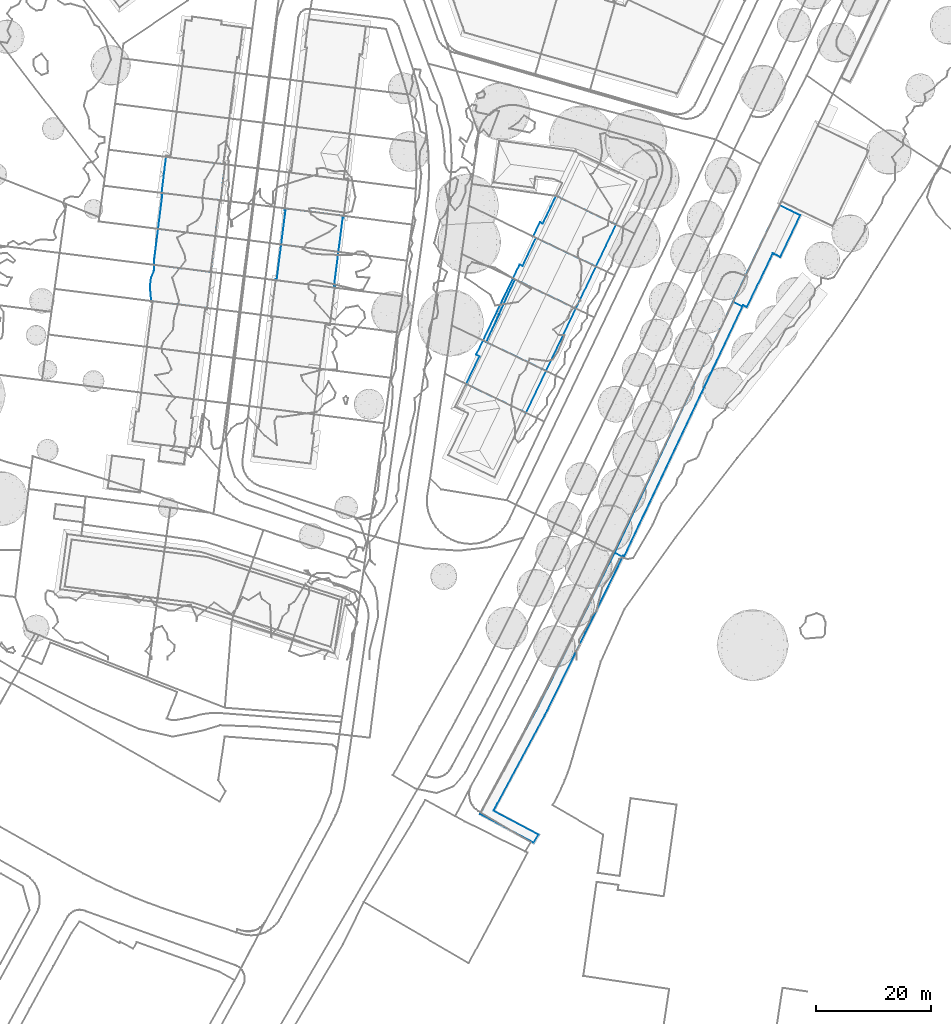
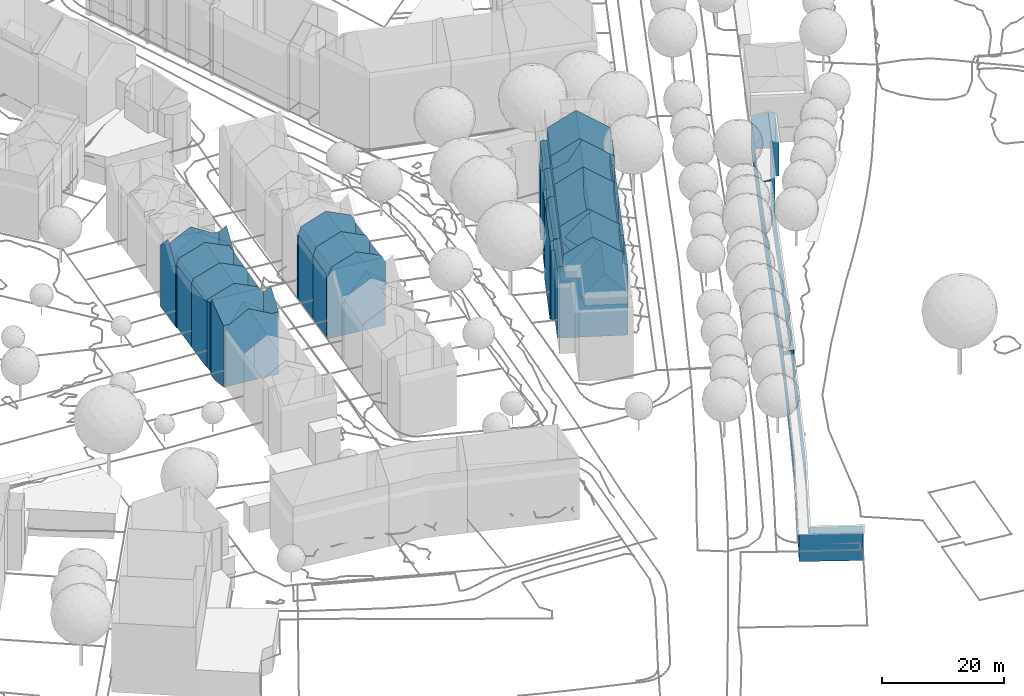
# Not in any storey, part 39 of 477: 12 walls.
"""IFC4 building model written with IfcOpenShell, lengths in metres."""

from ifc_helpers import new_model, si_unit, frame, origin_with_axes, place, context, subcontext, project, spatial, polygons, element, save


model = new_model("IFC4")

# Units and contexts
model_context = context("Model", 3, precision=1e-05, world=origin_with_axes())
body_context = subcontext(model_context, "Body", "Model", "MODEL_VIEW")
ifc_project = project(units=[si_unit("AREAUNIT", "SQUARE_METRE"), si_unit("LENGTHUNIT", "METRE")], contexts=[model_context])

# Sites, building
site_1_placement = place(None, origin_with_axes())
site_1 = spatial("IfcSite", under=ifc_project, at=site_1_placement, Name="Topoexport Site")
site_2_placement = place(site_1_placement, origin_with_axes())
site_2 = spatial("IfcSite", under=site_1, at=site_2_placement, Name="TPX_BUILDINGS")
building_1_placement = place(site_2_placement, frame((495.5237320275, 54.2186160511, 497.0566), z_axis=(0.0, 0.0, 1.0), x_axis=(1.0, 0.0, 0.0)))
building_1 = spatial("IfcBuilding", under=site_2, at=building_1_placement, Name="Building 9", CompositionType="ELEMENT")

# Walls
wall_1_placement = place(None, frame((495.5237320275, 54.2186160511, 497.0566), z_axis=(0.0, 0.0, 1.0), x_axis=(1.0, 0.0, 0.0)))
element("IfcWall", 1, at=wall_1_placement, inside=building_1, Name="Wall 0", context=body_context, shape_type="Tessellation", body=[
    polygons([(2.2589999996, 3.4111000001, 0.44), (0.5759999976, -0.2784000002, 0.508), (2.0359999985, 2.9228000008, 15.9155), (5.2080000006, 10.8144000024, 0.0001), (5.5590000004, 10.6464000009, 0.309), (5.2080000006, 10.8144000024, 15.4666), (0.0, 0.0, 0.0), (2.3440000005, 4.8662, 15.4666), (0.0, 0.0, 15.4666), (2.3440000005, 4.8662, 0.0001), (0.5759999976, -0.2784000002, 15.9735), (0.5370000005, -0.2588, 0.473), (5.5590000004, 10.6464000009, 15.7755)], [[[3, 2, 1]], [[6, 5, 4]], [[9, 8, 7]], [[4, 10, 6]], [[11, 9, 2]], [[9, 12, 2]], [[12, 9, 7]], [[5, 13, 1]], [[1, 13, 3]], [[11, 2, 3]], [[13, 5, 6]], [[8, 10, 7]], [[10, 8, 6]]]),
])
wall_2_placement = place(None, frame((495.5237320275, 54.2186160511, 497.0566), z_axis=(0.0, 0.0, 1.0), x_axis=(1.0, 0.0, 0.0)))
element("IfcWall", 2, at=wall_2_placement, inside=building_1, Name="Wall 1", context=body_context, shape_type="Tessellation", body=[
    polygons([(10.2449999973, -4.9483000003, 16.1765), (12.3139999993, -0.6543000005, 18.5382), (13.0480000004, 0.871100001, 16.1765), (14.8159999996, 4.5410000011, 16.1765), (15.4690000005, 5.8974000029, 18.5383), (15.4690000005, 5.8974000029, 16.1765), (1.4809999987, -0.7148999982, 16.1765), (4.068, 4.6552000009, 18.5573), (1.4809999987, -0.7148999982, 18.5573), (6.0260000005, 8.7187000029, 16.1765), (6.6919999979, 10.1025000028, 16.7714), (6.6919999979, 10.1025000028, 16.1765), (2.868999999, 4.6152000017, 1.9099), (2.8189999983, 4.638600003, 15.8845), (2.868999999, 4.6152000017, 15.9285), (2.8189999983, 4.638600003, 1.9099), (2.2569999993, 3.3349000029, 1.9099), (2.0370000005, 2.8769000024, 6.1695), (2.1970000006, 3.2099000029, 15.9325), (1.5599999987, 1.8789000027, 15.9345), (1.5599999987, 1.8789000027, 1.9099), (0.5759999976, -0.2784000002, 1.9099), (0.5759999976, -0.2784000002, 15.9745), (5.5590000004, 10.6464000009, 15.7755), (5.5590000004, 10.6464000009, 1.9099), (16.1620000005, 5.5644000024, 1.9099), (10.9659999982, -5.2958999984, 16.1765), (16.1620000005, 5.5644000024, 16.1765), (5.7670000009, -2.7851999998, 21.8379), (10.2449999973, -4.9483000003, 18.5382), (10.9659999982, -5.2958999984, 1.9098), (10.2449999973, -4.9483000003, 1.9098), (0.805999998, -0.3886999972, 16.1765), (5.748999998, -2.7763999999, 1.9099), (6.0159999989, 10.4266999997, 1.9099), (6.0159999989, 10.4266999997, 16.1765), (6.6919999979, 10.1025000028, 1.9099), (10.9839999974, 8.0459000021, 1.9099), (15.4690000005, 5.8974000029, 1.9099), (10.9839999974, 8.0459000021, 21.8379), (6.6919999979, 10.1025000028, 18.5573)], [[[3, 2, 1]], [[6, 5, 4]], [[5, 3, 4]], [[9, 8, 7]], [[8, 11, 10]], [[12, 10, 11]], [[15, 14, 13]], [[16, 13, 14]], [[18, 15, 17]], [[18, 20, 19]], [[20, 18, 21]], [[18, 17, 21]], [[23, 20, 22]], [[16, 14, 24]], [[25, 16, 24]], [[28, 27, 26]], [[1, 29, 9]], [[1, 9, 7]], [[30, 29, 1]], [[27, 1, 31]], [[7, 31, 1]], [[7, 23, 32]], [[23, 7, 33]], [[31, 7, 32]], [[22, 34, 23]], [[23, 34, 32]], [[35, 25, 24]], [[36, 12, 24]], [[37, 24, 12]], [[35, 24, 37]], [[37, 12, 38]], [[28, 26, 39]], [[38, 6, 39]], [[6, 38, 12]], [[11, 41, 40]], [[11, 40, 5]], [[6, 28, 39]], [[5, 6, 11]], [[11, 6, 12]], [[5, 2, 3]], [[30, 1, 2]], [[8, 10, 7]], [[41, 11, 8]], [[19, 15, 18]], [[15, 13, 17]], [[20, 21, 22]], [[27, 31, 26]]]),
])

# Building
building_2_placement = place(site_2_placement, frame((504.2517320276, 72.3416160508, 498.9665), z_axis=(0.0, 0.0, 1.0), x_axis=(1.0, 0.0, 0.0)))
building_2 = spatial("IfcBuilding", under=site_2, at=building_2_placement, Name="Building 14", CompositionType="ELEMENT")

# Wall
wall_3_placement = place(None, frame((504.2517320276, 72.3416160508, 498.9665), z_axis=(0.0, 0.0, 1.0), x_axis=(1.0, 0.0, 0.0)))
element("IfcWall", 3, at=wall_3_placement, inside=building_2, Name="Wall 0", context=body_context, shape_type="Tessellation", body=[
    polygons([(12.0669999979, -2.878899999, 0.0), (11.811999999, -3.4130999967, 16.1344), (12.6840000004, -1.5888999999, 4.0276), (13.3420000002, -0.2138999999, 0.0), (12.6840000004, -1.5888999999, 16.1384), (13.555999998, 0.2354000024, 16.1424), (14.4289999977, 2.0596000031, 0.0), (14.4289999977, 2.0596000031, 8.0722), (10.9389999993, -5.2372999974, 12.0938), (10.9389999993, -5.2372999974, 8.0582), (10.9389999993, -5.2372999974, 4.0216), (10.9389999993, -5.2372999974, 0.0), (1.4849999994, -0.7108999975, 14.2666), (2.7699999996, 1.9570000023, 16.6474), (1.4849999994, -0.7108999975, 16.6474), (2.9349999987, 2.2998000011, 14.2666), (5.0020000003, 6.5898000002, 16.6474), (5.0020000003, 6.5898000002, 14.2666), (3.9849999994, 7.0654000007, 0.0), (3.0940000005, 5.2031000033, 3.4127), (3.3110000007, 5.6563000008, 0.0), (1.6769999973, 2.2412, 13.9836), (1.6769999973, 2.2412, 0.0), (2.2540000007, 3.447300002, 0.0), (3.9849999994, 7.0654000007, 13.9726), (3.1349999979, 5.2881000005, 13.9766), (1.3719999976, 2.3867000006, 13.7157), (1.3539999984, 2.3965000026, 3.7946), (1.1909999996, 2.4736000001, 0.0), (0.0, 0.0, 0.0), (0.0, 0.0, 13.5567), (4.0260000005, 7.0596000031, 0.0), (4.0260000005, 7.0596000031, 14.0036), (5.7769999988, -2.7655999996, 0.0), (1.4849999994, -0.7108999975, 0.0), (0.8079999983, -0.3866999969, 0.0), (5.7769999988, -2.7655999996, 19.9271), (10.9389999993, -5.2372999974, 16.1304), (0.8079999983, -0.3866999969, 14.2666), (9.2909999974, 4.5293000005, 19.9271), (4.3259999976, 6.9150000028, 14.2666), (5.0020000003, 6.5898000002, 0.0), (14.4289999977, 2.0596000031, 16.1454), (9.2909999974, 4.5293000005, 0.0), (4.3259999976, 6.9150000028, 0.0), (1.1909999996, 2.4736000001, 13.5567)], [[[3, 2, 1]], [[6, 5, 4]], [[8, 4, 7]], [[2, 9, 1]], [[3, 1, 4]], [[11, 1, 10]], [[11, 12, 1]], [[15, 14, 13]], [[14, 17, 16]], [[16, 13, 14]], [[18, 16, 17]], [[21, 20, 19]], [[23, 22, 20]], [[24, 23, 20]], [[26, 25, 20]], [[21, 24, 20]], [[28, 27, 22]], [[29, 28, 23]], [[22, 23, 28]], [[31, 29, 30]], [[25, 32, 19]], [[32, 25, 33]], [[31, 34, 11]], [[31, 11, 10]], [[9, 13, 10]], [[12, 11, 34]], [[31, 36, 35]], [[34, 31, 35]], [[9, 38, 37]], [[13, 9, 15]], [[36, 31, 30]], [[10, 13, 31]], [[39, 31, 13]], [[15, 9, 37]], [[17, 40, 18]], [[33, 41, 18]], [[33, 18, 42]], [[40, 43, 18]], [[43, 8, 18]], [[8, 42, 18]], [[44, 8, 7]], [[33, 45, 32]], [[33, 42, 45]], [[8, 44, 42]], [[6, 4, 43]], [[5, 3, 4]], [[8, 43, 4]], [[3, 5, 2]], [[38, 9, 2]], [[9, 10, 1]], [[22, 26, 20]], [[19, 20, 25]], [[27, 28, 46]], [[29, 46, 28]], [[46, 29, 31]]]),
])

# Building
building_3_placement = place(site_2_placement, frame((500.7317320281, 65.0330160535, 498.9665), z_axis=(0.0, 0.0, 1.0), x_axis=(1.0, 0.0, 0.0)))
building_3 = spatial("IfcBuilding", under=site_2, at=building_3_placement, Name="Building 16", CompositionType="ELEMENT")

# Wall
wall_4_placement = place(None, frame((500.7317320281, 65.0330160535, 498.9665), z_axis=(0.0, 0.0, 1.0), x_axis=(1.0, 0.0, 0.0)))
element("IfcWall", 4, at=wall_4_placement, inside=building_3, Name="Wall 0", context=body_context, shape_type="Tessellation", body=[
    polygons([(13.7829999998, 2.3944999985, 14.2666), (10.2609999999, -4.9180000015, 16.6274), (13.7829999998, 2.3944999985, 16.6284), (2.9289999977, 4.8095999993, 13.9936), (1.6799999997, 2.1992000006, 13.9996), (1.6799999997, 2.1992000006, 0.0), (3.2749999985, 5.5321999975, 0.0), (4.0119999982, 7.0722999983, 3.5056), (4.0119999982, 7.0722999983, 0.0), (1.175999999, 2.441399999, 0.0), (1.175999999, 2.441399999, 13.5567), (0.0, 0.0, 0.0), (0.0, 0.0, 13.5567), (14.4579999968, 2.0713, 0.0), (10.9539999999, -5.25, 14.2666), (14.4579999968, 2.0713, 14.2666), (1.4839999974, -0.7109000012, 16.6474), (5.7759999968, -2.7685000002, 19.928), (10.2609999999, -4.9180000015, 14.2666), (1.4839999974, -0.7109000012, 14.2666), (10.9539999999, -5.25, 0.0), (10.2609999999, -4.9180000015, 0.0), (0.8079999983, -0.3877000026, 0.0), (5.7969999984, -2.7783000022, 0.0), (0.8079999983, -0.3877000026, 14.2666), (4.5700000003, 6.8057000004, 0.0), (4.0119999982, 7.0722999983, 10.028), (9.2969999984, 4.5429999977, 0.0), (13.7829999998, 2.3944999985, 0.0), (5.004999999, 6.5976999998, 14.2666), (4.0119999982, 7.0722999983, 13.9886), (9.2969999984, 4.5429999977, 19.9271), (5.004999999, 6.5976999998, 16.6474), (4.3279999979, 6.9219000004, 14.2666), (3.5259999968, 3.5263999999, 16.6474), (3.5739999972, 3.6279000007, 14.2666)], [[[3, 2, 1]], [[6, 5, 4]], [[7, 6, 4]], [[7, 4, 8]], [[8, 9, 7]], [[11, 6, 10]], [[13, 10, 12]], [[10, 13, 11]], [[16, 15, 14]], [[19, 18, 17]], [[19, 17, 20]], [[15, 19, 21]], [[19, 2, 18]], [[21, 19, 20]], [[20, 13, 22]], [[12, 23, 13]], [[24, 13, 23]], [[21, 20, 22]], [[22, 13, 24]], [[20, 25, 13]], [[9, 8, 26]], [[1, 28, 27]], [[8, 27, 28]], [[28, 1, 29]], [[26, 8, 28]], [[1, 14, 29]], [[27, 31, 30]], [[30, 33, 32]], [[1, 30, 32]], [[16, 14, 1]], [[32, 3, 1]], [[27, 30, 1]], [[30, 31, 34]], [[2, 19, 1]], [[36, 35, 30]], [[17, 35, 20]], [[35, 36, 20]], [[33, 30, 35]], [[4, 31, 27]], [[8, 4, 27]], [[5, 6, 11]], [[15, 21, 14]]]),
])

# Building
building_4_placement = place(site_2_placement, frame((492.5717320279, 46.6580160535, 498.9665), z_axis=(0.0, 0.0, 1.0), x_axis=(1.0, 0.0, 0.0)))
building_4 = spatial("IfcBuilding", under=site_2, at=building_4_placement, Name="Building 17", CompositionType="ELEMENT")

# Wall
wall_5_placement = place(None, frame((492.5717320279, 46.6580160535, 498.9665), z_axis=(0.0, 0.0, 1.0), x_axis=(1.0, 0.0, 0.0)))
element("IfcWall", 5, at=wall_5_placement, inside=building_4, Name="Wall 0", context=body_context, shape_type="Tessellation", body=[
    polygons([(11.7980000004, -0.2939000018, 16.6283), (13.1979999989, 2.6122999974, 16.6283), (13.1979999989, 2.6122999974, 14.2666), (9.6889999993, -4.6719000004, 14.2666), (9.6889999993, -4.6719000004, 14.8125), (9.6889999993, -4.6719000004, 16.6283), (0.9230000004, -0.4453000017, 14.2666), (4.4329999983, 6.8456999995, 16.6474), (2.6789999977, 3.2030999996, 16.6474), (4.4329999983, 6.8456999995, 14.2666), (2.3319999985, 4.811499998, 0.0), (1.7639999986, 5.0946999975, 13.5567), (2.3319999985, 4.811499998, 14.0606), (1.7639999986, 5.0946999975, 0.0), (0.0, 0.0, 7.1073), (0.9690000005, 1.998999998, 0.0), (0.0, 0.0, 14.0496), (0.0, 0.0, 0.0), (2.9519999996, 7.5605999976, 13.5567), (2.9519999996, 7.5605999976, 0.0), (13.9179999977, 2.2646999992, -0.0001), (10.4279999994, -5.0283000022, 14.2666), (13.9179999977, 2.2646999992, 14.2666), (5.2089999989, -2.5127000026, 19.928), (0.9230000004, -0.4453000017, 16.6474), (9.6889999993, -4.6719000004, -0.0001), (0.2469999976, -0.1191000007, 14.2666), (5.2339999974, -2.5243999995, -0.0001), (0.1689999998, -0.0820000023, 0.0), (10.4279999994, -5.0283000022, -0.0001), (0.2469999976, -0.1191000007, 0.0), (3.7579999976, 7.1719000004, 14.2666), (3.5279999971, 7.2821999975, 14.0646), (3.9690000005, 7.0692999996, 0.0), (8.7190000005, 4.7753999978, 0.0), (13.1979999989, 2.6122999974, -0.0001), (8.7190000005, 4.7753999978, 19.928)], [[[3, 2, 1]], [[5, 4, 3]], [[5, 3, 1]], [[6, 5, 1]], [[9, 8, 7]], [[8, 10, 7]], [[13, 12, 11]], [[12, 14, 11]], [[17, 16, 15]], [[17, 13, 16]], [[15, 16, 18]], [[11, 16, 13]], [[20, 12, 19]], [[20, 14, 12]], [[23, 22, 21]], [[24, 7, 5]], [[25, 7, 24]], [[5, 6, 24]], [[26, 22, 4]], [[5, 7, 4]], [[4, 7, 15]], [[27, 17, 7]], [[7, 17, 15]], [[15, 28, 4]], [[29, 15, 18]], [[30, 22, 26]], [[26, 4, 28]], [[29, 31, 15]], [[15, 31, 28]], [[33, 32, 10]], [[33, 10, 19]], [[34, 19, 10]], [[20, 19, 34]], [[3, 36, 35]], [[10, 35, 34]], [[35, 10, 3]], [[10, 8, 37]], [[10, 37, 2]], [[36, 23, 21]], [[36, 3, 23]], [[2, 3, 10]], [[7, 25, 9]], [[22, 30, 21]]]),
])

# Building
building_5_placement = place(site_2_placement, frame((211.8297320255, 101.9383160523, 526.7541), z_axis=(0.0, 0.0, 1.0), x_axis=(1.0, 0.0, 0.0)))
building_5 = spatial("IfcBuilding", under=site_2, at=building_5_placement, Name="Building 18", CompositionType="ELEMENT")

# Wall
wall_6_placement = place(None, frame((211.8297320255, 101.9383160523, 526.7541), z_axis=(0.0, 0.0, 1.0), x_axis=(1.0, 0.0, 0.0)))
element("IfcWall", 6, at=wall_6_placement, inside=building_5, Name="Wall 1", context=body_context, shape_type="Tessellation", body=[
    polygons([(306.6060000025, -84.6942999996, -27.9427), (306.6080000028, -84.6933999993, -26.1389), (306.6060000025, -84.6942999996, -22.4562), (306.6052000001, -84.6944000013, -21.6243), (306.6070000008, -84.692400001, -27.9427), (308.1209999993, -85.2069999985, -23.0782), (308.313000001, -85.2412, -27.9427), (308.1209999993, -85.2069999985, -24.706), (308.1209999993, -85.2069999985, -26.3349), (308.1209999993, -85.2069999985, -27.9427), (285.512000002, -129.5995999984, -23.6291), (293.3480000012, -133.7763999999, -27.9427), (285.512000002, -129.5995999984, -22.1713), (285.512000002, -129.5995999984, -25.088), (285.512000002, -129.5995999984, -27.9427), (292.4979999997, -135.1669999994, -27.9427), (292.4979999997, -135.1669999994, -23.8301), (293.3480000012, -133.7763999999, -22.1083), (292.4979999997, -135.1669999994, -22.3713), (308.0360000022, -85.378899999, -22.2123), (308.0360000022, -85.378899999, -21.4493), (335.4580000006, -33.1464999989, -21.1473), (338.9510000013, -25.9023999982, -21.1473), (335.4580000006, -33.1464999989, -22.8461), (338.9510000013, -25.9023999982, -27.9427), (335.4580000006, -33.1464999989, -27.9427), (327.2420000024, -41.003899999, -21.5843), (328.8660000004, -41.7870999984, -21.0533), (328.8660000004, -41.7870999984, -21.4213), (327.2420000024, -41.003899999, -21.5393), (289.6669999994, -118.191399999, -22.4003), (289.1790000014, -119.0839999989, -27.9427), (289.6669999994, -118.191399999, -27.9427), (289.1810000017, -119.0791000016, -22.4033), (293.3880000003, -111.3975000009, -27.9427), (293.3880000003, -111.3975000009, -22.3783), (287.0720000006, -123.0791000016, -22.4153), (287.0720000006, -123.0791000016, -27.9427), (288.6020000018, -120.1777000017, -22.4053), (286.7400000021, -123.691399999, -22.4193), (283.2259999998, -130.1728999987, -27.9427), (286.7400000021, -123.691399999, -27.9427), (283.2259999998, -130.1728999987, -22.4413), (294.9710000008, -108.2001999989, -27.9427), (294.9710000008, -108.2001999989, -22.3872), (283.2410000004, -130.1807000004, -22.4383), (335.3610000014, -24.1719000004, -27.9426), (327.6119999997, -40.2362999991, -21.5403), (327.2400000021, -41.0078000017, -27.9427), (335.1650000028, -24.5771999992, -21.4983), (335.3610000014, -24.1719000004, -21.4983), (337.887000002, -25.3896999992, -20.7983), (334.3120000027, -32.5938000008, -20.8203), (334.393000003, -32.6328000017, -20.7983), (334.1680000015, -32.5234999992, -20.8613), (334.2990000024, -32.5879000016, -27.9427), (334.1680000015, -32.5234999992, -27.9427), (329.2160000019, -41.6796999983, -20.9813), (329.6530000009, -41.8887000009, -20.8603), (329.6530000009, -41.8887000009, -27.9427), (328.9720000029, -41.5625, -21.0543), (328.9720000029, -41.5625, -27.9427), (333.6909999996, -33.5137000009, -20.8643), (333.6909999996, -33.5137000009, -27.9427), (332.5610000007, -35.8555000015, -27.9427), (332.5610000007, -35.8555000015, -20.8603), (328.8660000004, -41.7870999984, -27.9427), (308.313000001, -85.2412, -25.4999), (308.313000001, -85.2412, -21.4283), (310.5970000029, -80.4120999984, -21.4233), (324.995000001, -45.7617000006, -21.5833), (306.6070000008, -84.692400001, -21.6243), (324.995000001, -45.7617000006, -27.9427), (308.1209999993, -85.2069999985, -21.4493), (306.5199999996, -88.4638999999, -22.2023), (294.876000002, -112.1572000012, -27.9427), (294.876000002, -112.1572000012, -22.1203), (286.1980000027, -128.3213, -22.1643), (294.4140000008, -113.0175999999, -22.1213), (286.1980000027, -128.3213, -27.9427), (294.4140000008, -113.0175999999, -27.9427), (285.9640000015, -128.7569000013, -22.1663), (285.5199999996, -129.5850000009, -22.1683), (285.9140000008, -128.8506000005, -27.9427)], [[[3, 2, 1]], [[2, 3, 4]], [[2, 5, 1]], [[8, 7, 6]], [[7, 8, 9]], [[7, 9, 10]], [[13, 12, 11]], [[11, 12, 14]], [[14, 12, 15]], [[12, 17, 16]], [[19, 17, 18]], [[21, 4, 20]], [[24, 23, 22]], [[23, 26, 25]], [[29, 28, 27]], [[30, 27, 28]], [[33, 32, 31]], [[31, 32, 34]], [[36, 35, 33]], [[36, 33, 31]], [[38, 37, 32]], [[32, 37, 39]], [[39, 34, 32]], [[42, 41, 40]], [[40, 41, 43]], [[37, 38, 42]], [[37, 42, 40]], [[36, 45, 44]], [[44, 35, 36]], [[45, 3, 44]], [[44, 3, 1]], [[16, 17, 43]], [[46, 17, 19]], [[16, 43, 41]], [[43, 17, 46]], [[49, 48, 47]], [[47, 48, 50]], [[50, 51, 47]], [[23, 25, 47]], [[47, 51, 52]], [[52, 23, 47]], [[54, 53, 24]], [[24, 22, 54]], [[55, 26, 24]], [[24, 53, 55]], [[56, 26, 55]], [[56, 55, 57]], [[60, 59, 58]], [[60, 58, 61]], [[62, 60, 61]], [[55, 63, 57]], [[64, 57, 63]], [[63, 65, 64]], [[66, 59, 65]], [[60, 65, 59]], [[66, 65, 63]], [[61, 28, 29]], [[68, 67, 29]], [[61, 29, 62]], [[67, 62, 29]], [[68, 7, 67]], [[70, 69, 68]], [[29, 70, 68]], [[72, 71, 5]], [[73, 5, 71]], [[30, 48, 27]], [[27, 48, 49]], [[49, 71, 27]], [[73, 71, 49]], [[6, 74, 20]], [[8, 6, 75]], [[76, 9, 8]], [[77, 76, 8]], [[6, 20, 75]], [[77, 8, 75]], [[76, 10, 9]], [[21, 20, 74]], [[80, 79, 78]], [[14, 80, 78]], [[76, 77, 81]], [[81, 77, 79]], [[79, 80, 81]], [[78, 82, 11]], [[83, 13, 11]], [[14, 78, 11]], [[14, 15, 84]], [[80, 14, 84]], [[11, 82, 83]], [[72, 2, 4]], [[2, 72, 5]], [[7, 69, 74]], [[7, 74, 6]], [[18, 12, 13]], [[12, 18, 17]], [[4, 3, 20]], [[24, 26, 23]]]),
])

# Building
building_6_placement = place(site_2_placement, frame((439.5667320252, 79.9246160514, 499.5705), z_axis=(0.0, 0.0, 1.0), x_axis=(1.0, 0.0, 0.0)))
building_6 = spatial("IfcBuilding", under=site_2, at=building_6_placement, Name="Building 44", CompositionType="ELEMENT")

# Wall
wall_7_placement = place(None, frame((439.5667320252, 79.9246160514, 499.5705), z_axis=(0.0, 0.0, 1.0), x_axis=(1.0, 0.0, 0.0)))
element("IfcWall", 7, at=wall_7_placement, inside=building_6, Name="Wall 0", context=body_context, shape_type="Tessellation", body=[
    polygons([(10.6560000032, 1.7294999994, 0.0), (10.3030000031, -1.2811999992, 0.0), (10.3030000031, -1.2811999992, 12.2708), (10.2280000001, -1.2714999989, 12.2698), (10.2280000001, -1.2714999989, 0.0), (9.5560000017, -1.1875, 0.0), (5.2080000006, -0.6464999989, 0.0), (9.5560000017, -1.1875, 13.5987), (0.5260000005, -0.0643999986, 13.5987), (5.2080000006, -0.6464999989, 15.5125), (0.5350000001, -0.0654000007, 0.0), (0.1130000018, -0.0136999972, 12.3288), (0.375, 3.0947000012, 0.0), (0.1950000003, 1.6123000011, 13.9267), (0.0, 0.0, 0.0), (0.3890000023, 3.2090000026, 15.5125), (0.4790000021, 3.9570000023, 0.0), (0.7589999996, 6.2675999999, 0.0), (0.7589999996, 6.2675999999, 12.3878), (2.3210000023, 6.0713, 12.3688), (2.3210000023, 6.0713, 0.0), (0.432, 3.5683999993, 5.2085), (0.4519999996, 3.7324000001, 14.9796), (6.074000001, 5.6016000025, 0.0), (9.949000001, 5.1162, 12.2668), (6.074000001, 5.6016000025, 14.5366), (10.745000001, 2.4912, 14.7946), (11.0370000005, 4.9805000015, 12.2518), (10.7440000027, 2.4794999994, 0.0), (10.6970000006, 2.0811000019, 4.7895), (10.6630000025, 1.7871000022, 15.5135), (10.6909999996, 2.0274000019, 15.2685), (11.0370000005, 4.9805000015, 0.0), (9.949000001, 5.1162, 0.0), (0.0, 0.0, 12.3268), (0.4840000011, 3.9912, 14.7156)], [[[3, 2, 1]], [[2, 3, 4]], [[5, 2, 4]], [[4, 6, 5]], [[8, 7, 6]], [[10, 9, 7]], [[9, 12, 11]], [[15, 14, 13]], [[16, 13, 14]], [[12, 15, 11]], [[19, 18, 17]], [[21, 19, 20]], [[21, 18, 19]], [[22, 13, 16]], [[23, 17, 22]], [[22, 17, 13]], [[26, 25, 24]], [[20, 24, 21]], [[29, 28, 27]], [[29, 27, 30]], [[32, 31, 30]], [[30, 1, 29]], [[33, 28, 29]], [[25, 28, 34]], [[28, 33, 34]], [[1, 31, 3]], [[8, 6, 4]], [[10, 7, 8]], [[9, 11, 7]], [[15, 35, 14]], [[35, 15, 12]], [[36, 19, 17]], [[22, 16, 23]], [[36, 17, 23]], [[25, 34, 24]], [[26, 24, 20]], [[32, 30, 27]], [[31, 1, 30]]]),
])

# Building
building_7_placement = place(site_2_placement, frame((438.9377320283, 73.6600160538, 499.5705), z_axis=(0.0, 0.0, 1.0), x_axis=(1.0, 0.0, 0.0)))
building_7 = spatial("IfcBuilding", under=site_2, at=building_7_placement, Name="Building 47", CompositionType="ELEMENT")

# Wall
wall_8_placement = place(None, frame((438.9377320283, 73.6600160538, 499.5705), z_axis=(0.0, 0.0, 1.0), x_axis=(1.0, 0.0, 0.0)))
element("IfcWall", 8, at=wall_8_placement, inside=building_7, Name="Wall 0", context=body_context, shape_type="Tessellation", body=[
    polygons([(9.3189999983, -1.1739000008, 0.0), (4.9719999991, -0.6270000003, 0.0), (9.3189999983, -1.1739000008, 13.5977), (5.8369999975, 5.6180999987, 0.0), (10.1849999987, 5.0770999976, 13.5987), (5.8369999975, 5.6180999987, 15.5125), (0.2919999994, -0.0381000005, 13.5987), (4.9719999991, -0.6270000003, 15.5125), (1.1549999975, 6.2001999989, 0.0), (1.1549999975, 6.2001999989, 13.5987), (0.4659999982, 3.7118999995, 0.0), (0.4199999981, 3.3475999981, 12.5718), (0.186999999, 1.4891999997, 0.0), (0.0, 0.0, 0.0), (0.1879999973, 1.498999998, 12.6438), (0.0, 0.0, 12.7018), (0.7529999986, 5.9969999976, 12.4698), (0.2919999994, -0.0381000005, 0.0), (0.6289999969, 6.2645999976, 0.0), (0.7419999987, 6.2509000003, 12.3288), (0.6030000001, 6.0155999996, 0.0), (0.6939999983, 6.0047999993, 8.3912), (0.7529999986, 5.9969999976, 0.0), (0.6030000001, 6.0155999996, 12.0808), (0.6269999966, 6.0126999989, 12.0808), (0.6289999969, 6.2645999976, 12.3268), (10.9189999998, 4.8680999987, 0.0), (10.9149999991, 4.8348999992, 12.1148), (10.932, 4.9833999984, 0.0), (10.856999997, 4.9930999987, 0.0), (10.856999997, 4.9930999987, 12.2698), (10.932, 4.9833999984, 12.2708), (10.1589999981, 0.245099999, 4.5715), (10.1579999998, 0.244099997, 12.3488), (10.2869999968, 1.2509000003, 0.0), (10.5179999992, 3.0585999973, 0.0), (10.7329999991, 4.7460999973, 12.4448), (10.7329999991, 4.7460999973, 0.0), (10.5409999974, 3.245099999, 12.4128), (10.3499999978, 1.745099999, 12.3808), (9.9670000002, -1.255900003, 12.3178), (9.9670000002, -1.255900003, 0.0), (10.9019999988, 4.7245999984, 12.1108), (10.9019999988, 4.7245999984, 0.0), (10.1849999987, 5.0770999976, 0.0)], [[[3, 2, 1]], [[6, 5, 4]], [[8, 7, 2]], [[10, 4, 9]], [[13, 12, 11]], [[16, 15, 14]], [[13, 14, 15]], [[12, 17, 11]], [[7, 14, 18]], [[14, 7, 16]], [[20, 9, 19]], [[23, 22, 21]], [[23, 17, 22]], [[25, 24, 21]], [[19, 26, 20]], [[21, 24, 26]], [[26, 19, 21]], [[29, 28, 27]], [[31, 29, 30]], [[29, 31, 32]], [[35, 34, 33]], [[38, 37, 36]], [[36, 37, 39]], [[40, 34, 35]], [[42, 33, 41]], [[33, 42, 35]], [[44, 43, 37]], [[37, 38, 44]], [[27, 28, 43]], [[43, 44, 27]], [[5, 31, 45]], [[41, 1, 42]], [[1, 41, 3]], [[8, 2, 3]], [[5, 45, 4]], [[7, 18, 2]], [[6, 4, 10]], [[15, 12, 13]], [[17, 23, 11]], [[10, 9, 20]], [[22, 17, 25]], [[25, 21, 22]], [[32, 28, 29]], [[39, 35, 36]], [[40, 35, 39]], [[33, 34, 41]], [[31, 30, 45]]]),
])

# Building
building_8_placement = place(site_2_placement, frame((438.2527320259, 67.3914160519, 499.5705), z_axis=(0.0, 0.0, 1.0), x_axis=(1.0, 0.0, 0.0)))
building_8 = spatial("IfcBuilding", under=site_2, at=building_8_placement, Name="Building 48", CompositionType="ELEMENT")

# Wall
wall_9_placement = place(None, frame((438.2527320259, 67.3914160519, 499.5705), z_axis=(0.0, 0.0, 1.0), x_axis=(1.0, 0.0, 0.0)))
element("IfcWall", 9, at=wall_9_placement, inside=building_8, Name="Wall 0", context=body_context, shape_type="Tessellation", body=[
    polygons([(4.7919999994, -0.6024999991, 0.0), (0.1119999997, -0.0137000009, 13.5987), (4.7919999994, -0.6024999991, 15.5125), (0.9770000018, 6.2305000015, 0.0), (5.6570000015, 5.6416000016, 0.0), (0.9770000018, 6.2305000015, 13.5987), (0.4680000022, 4.5390999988, 0.0), (0.5240000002, 4.9873000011, 7.9132), (0.2820000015, 3.066399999, 3.9566), (0.0410000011, 1.1455000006, 0.0), (0.0410000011, 1.1455000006, 12.8987), (0.6850000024, 6.2686000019, 12.7018), (0.4499999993, 4.4013999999, 12.7728), (0.6850000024, 6.2686000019, 0.0), (0.0, 0.0, 0.0), (0.0, 0.0, 13.2537), (9.1400000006, -1.1493999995, 0.0), (9.1400000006, -1.1493999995, 13.5977), (10.0040000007, 5.0947000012, 13.5977), (5.6570000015, 5.6416000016, 15.5125), (10.1220000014, 0.8544999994, 0.0), (10.0760000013, 0.501000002, 12.2218), (10.3590000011, 2.7109000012, 0.0), (10.6520000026, 5.0126999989, 0.0), (10.4890000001, 3.7314999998, 12.2908), (10.6520000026, 5.0126999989, 12.3178), (10.2730000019, 2.0410000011, 12.2548), (9.8859999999, -0.9921999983, 0.0), (10.0040000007, 5.0947000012, 0.0), (9.693, -1.2197000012, 0.0), (9.693, -1.2197000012, 12.5038), (9.8859999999, -0.9921999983, 12.2548), (10.0350000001, -1.0106999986, 0.0), (10.0350000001, -1.0108000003, 12.2528), (9.8940000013, -0.9296999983, 12.1918), (10.0040000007, -1.2588, 0.0), (10.0040000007, -1.2588, 12.4998)], [[[3, 2, 1]], [[6, 5, 4]], [[9, 8, 7]], [[11, 9, 10]], [[10, 9, 7]], [[13, 12, 8]], [[14, 7, 12]], [[16, 11, 15]], [[2, 16, 15]], [[4, 12, 6]], [[4, 14, 12]], [[18, 1, 17]], [[20, 19, 5]], [[23, 22, 21]], [[26, 25, 24]], [[23, 25, 27]], [[27, 22, 23]], [[22, 28, 21]], [[19, 24, 29]], [[24, 19, 26]], [[31, 17, 30]], [[34, 33, 32]], [[32, 33, 28]], [[28, 35, 32]], [[37, 30, 36]], [[30, 37, 31]], [[33, 34, 37]], [[37, 36, 33]], [[2, 15, 1]], [[20, 5, 6]], [[11, 13, 9]], [[13, 8, 9]], [[7, 8, 12]], [[11, 10, 15]], [[3, 1, 18]], [[19, 29, 5]], [[25, 23, 24]], [[35, 28, 22]], [[18, 17, 31]]]),
])

# Building
building_9_placement = place(site_2_placement, frame((437.5277320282, 63.6443160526, 499.5705), z_axis=(0.0, 0.0, 1.0), x_axis=(1.0, 0.0, 0.0)))
building_9 = spatial("IfcBuilding", under=site_2, at=building_9_placement, Name="Building 50", CompositionType="ELEMENT")

# Wall
wall_10_placement = place(None, frame((437.5277320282, 63.6443160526, 499.5705), z_axis=(0.0, 0.0, 1.0), x_axis=(1.0, 0.0, 0.0)))
element("IfcWall", 10, at=wall_10_placement, inside=building_9, Name="Wall 0", context=body_context, shape_type="Tessellation", body=[
    polygons([(9.8649999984, 2.5976999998, 0.0), (10.4179999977, 2.5273999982, 12.5038), (9.8649999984, 2.5976999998, 13.5977), (10.6459999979, 1.8125, 13.1747), (10.7289999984, 2.4882999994, 12.4998), (10.5479999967, 1.0157000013, 0.0), (10.7289999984, 2.4882999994, 0.0), (10.3579999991, -0.5302000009, 15.5125), (10.4179999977, 2.5273999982, 0.0), (0.1030000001, 0.8194000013, 0.0), (0.1119999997, 0.8887000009, 15.5135), (0.1079999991, 0.8535999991, 15.4815), (8.6629999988, -3.6044999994, 12.4528), (9.9599999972, -3.7666000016, 12.4688), (9.9599999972, -3.7666000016, 0.0), (10.1959999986, -1.8515000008, 14.2696), (10.1589999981, -2.1484000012, 0.0), (4.6529999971, -3.1035000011, 0.0), (0.7249999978, 3.7470999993, 0.0), (5.5169999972, 3.1446000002, 0.0), (0.8369999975, 3.7333999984, 13.5987), (0.1939999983, 1.5361999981, 0.0), (0.1939999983, 1.5361999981, 14.8216), (0.6849999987, 2.6347999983, 13.5987), (0.6849999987, 2.6347999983, 0.0), (0.7249999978, 3.7470999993, 13.2537), (5.5169999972, 3.1446000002, 15.5125), (4.1439999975, -3.0399999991, 0.0), (1.2969999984, -2.683600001, 12.3228), (4.1439999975, -3.0399999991, 14.1926), (4.6529999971, -3.1035000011, 14.5296), (0.0, 0.0, 0.0), (0.2329999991, -2.5507000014, 0.0), (0.0, 0.0, 14.6666), (0.2329999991, -2.5507000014, 12.3058)], [[[3, 2, 1]], [[6, 5, 4]], [[5, 6, 7]], [[8, 6, 4]], [[2, 5, 9]], [[5, 7, 9]], [[12, 11, 10]], [[15, 14, 13]], [[6, 8, 16]], [[16, 14, 17]], [[16, 17, 6]], [[14, 15, 17]], [[13, 18, 15]], [[21, 20, 19]], [[23, 22, 11]], [[11, 22, 10]], [[22, 23, 24]], [[25, 22, 24]], [[24, 26, 25]], [[27, 3, 20]], [[30, 29, 28]], [[31, 30, 18]], [[32, 12, 10]], [[35, 34, 33]], [[34, 32, 33]], [[29, 35, 33]], [[2, 9, 1]], [[31, 18, 13]], [[27, 20, 21]], [[21, 19, 26]], [[26, 19, 25]], [[3, 1, 20]], [[29, 33, 28]], [[30, 28, 18]], [[12, 32, 34]]]),
])

# Building
building_10_placement = place(site_2_placement, frame((460.3767320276, 70.9432160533, 499.4055), z_axis=(0.0, 0.0, 1.0), x_axis=(1.0, 0.0, 0.0)))
building_10 = spatial("IfcBuilding", under=site_2, at=building_10_placement, Name="Building 52", CompositionType="ELEMENT")

# Wall
wall_11_placement = place(None, frame((460.3767320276, 70.9432160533, 499.4055), z_axis=(0.0, 0.0, 1.0), x_axis=(1.0, 0.0, 0.0)))
element("IfcWall", 11, at=wall_11_placement, inside=building_10, Name="Wall 0", context=body_context, shape_type="Tessellation", body=[
    polygons([(9.3729999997, -1.2061000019, 0.0), (4.932, -0.6358000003, 0.0), (9.3729999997, -1.2061000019, 14.1246), (5.6710000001, 5.6532999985, 0.0), (10.112999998, 5.0868999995, 14.1246), (5.6710000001, 5.6532999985, 16.0924), (0.5439999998, -0.0703000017, 14.2016), (4.932, -0.6358000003, 16.0924), (1.2829999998, 6.2137999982, 0.0), (1.2829999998, 6.2137999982, 14.2016), (0.0, 0.0, 0.0), (0.1699999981, 1.3446999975, 12.6458), (0.0, 0.0, 12.6108), (0.2740000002, 2.1669999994, 0.0), (0.4100000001, 3.240199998, 12.6958), (0.7630000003, 6.0273000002, 0.0), (0.7630000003, 6.0273000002, 12.7678), (0.7709999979, 6.2782999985, 0.0), (0.7709999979, 6.2782999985, 12.7048), (0.6499999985, 6.0419999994, 0.0), (0.7009999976, 6.0350999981, 12.5878), (0.7199999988, 6.0321999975, 3.0677), (0.6050000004, 6.0478000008, 12.4368), (0.6490000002, 6.0419999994, 12.4368), (0.6050000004, 6.0478000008, 0.0), (0.6359999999, 6.2967999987, 0.0), (0.6359999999, 6.2967999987, 12.7068), (10.9140000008, 4.9842999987, 0.0), (10.9010000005, 4.8817999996, 0.0), (10.9140000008, 4.9842999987, 12.4538), (10.8609999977, 4.9912, 12.4538), (9.9679999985, -1.2831999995, 0.0), (10.7339999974, 4.7557999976, 12.6728), (10.2229999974, 0.7294999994, 0.0), (10.7339999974, 4.7557999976, 0.0), (10.8829999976, 4.7362999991, 12.3398), (10.8829999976, 4.7362999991, 0.0), (10.9010000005, 4.8827999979, 12.3378), (10.112999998, 5.0868999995, 0.0), (9.9679999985, -1.2831999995, 12.7957)], [[[3, 2, 1]], [[6, 5, 4]], [[8, 7, 2]], [[10, 4, 9]], [[13, 12, 11]], [[12, 15, 14]], [[12, 14, 11]], [[14, 15, 16]], [[16, 15, 17]], [[7, 13, 11]], [[19, 9, 18]], [[22, 21, 20]], [[17, 22, 16]], [[22, 20, 16]], [[20, 24, 23]], [[20, 23, 25]], [[27, 18, 26]], [[18, 27, 19]], [[25, 23, 27]], [[27, 26, 25]], [[30, 29, 28]], [[28, 31, 30]], [[34, 33, 32]], [[33, 34, 35]], [[37, 36, 33]], [[33, 35, 37]], [[37, 29, 38]], [[38, 36, 37]], [[5, 31, 39]], [[32, 40, 3]], [[1, 32, 3]], [[8, 2, 3]], [[5, 39, 4]], [[7, 11, 2]], [[6, 4, 10]], [[10, 9, 19]], [[21, 22, 17]], [[24, 20, 21]], [[38, 29, 30]], [[33, 40, 32]], [[31, 28, 39]]]),
])

# Building
building_11_placement = place(site_2_placement, frame((459.429732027, 64.7195160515, 499.4055), z_axis=(0.0, 0.0, 1.0), x_axis=(1.0, 0.0, 0.0)))
building_11 = spatial("IfcBuilding", under=site_2, at=building_11_placement, Name="Building 59", CompositionType="ELEMENT")

# Wall
wall_12_placement = place(None, frame((459.429732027, 64.7195160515, 499.4055), z_axis=(0.0, 0.0, 1.0), x_axis=(1.0, 0.0, 0.0)))
element("IfcWall", 12, at=wall_12_placement, inside=building_11, Name="Wall 0", context=body_context, shape_type="Tessellation", body=[
    polygons([(10.2659999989, -1.3055999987, 0.0), (5.1449999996, -0.6552000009, 0.0), (9.5870000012, -1.2196999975, 14.1246), (5.8790000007, 5.5879000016, 0.0), (10.3200000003, 5.0175999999, 14.1246), (5.8790000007, 5.5879000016, 16.0924), (0.7569999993, -0.0956999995, 14.2016), (5.1449999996, -0.6552000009, 16.0924), (0.9470000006, 6.2237000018, 0.0), (1.4910000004, 6.1534000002, 14.2016), (0.0309999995, 0.2481000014, 0.0), (0.0, 0.0, 12.5168), (0.0, 0.0, 0.0), (0.7659999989, -0.0965999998, 0.0), (0.180999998, -0.0223999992, 12.5188), (0.112999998, 0.2382999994, 12.2348), (0.0309999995, 0.2481000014, 12.2348), (0.1900000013, 0.2285000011, 0.0), (0.1900000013, 0.2285000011, 12.4598), (0.9470000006, 6.2237000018, 12.6108), (0.6579999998, 3.9317000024, 0.0), (0.3790000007, 1.7266000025, 12.4978), (10.7259999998, 3.4453000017, 0.0), (10.9149999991, 4.9405000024, 12.7957), (10.9149999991, 4.9405000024, 0.0), (10.1579999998, -1.0399999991, 0.0), (10.3200000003, 5.0175999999, 0.0), (10.2890000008, -1.1649999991, 6.0934), (10.307, -1.0585999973, 12.5818), (10.307, -1.0585999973, 0.0), (10.2659999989, -1.3055999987, 12.6177), (10.1579999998, -1.0399999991, 12.9147), (10.256000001, -1.3046999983, 12.6317), (0.6970000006, 4.2442000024, 12.5608)], [[[3, 2, 1]], [[6, 5, 4]], [[8, 7, 2]], [[10, 4, 9]], [[13, 12, 11]], [[15, 13, 14]], [[13, 15, 12]], [[17, 16, 11]], [[16, 18, 11]], [[19, 18, 16]], [[7, 15, 14]], [[9, 20, 10]], [[18, 22, 21]], [[18, 19, 22]], [[20, 9, 21]], [[25, 24, 23]], [[23, 24, 26]], [[5, 24, 27]], [[30, 29, 28]], [[28, 29, 31]], [[31, 1, 28]], [[28, 1, 30]], [[32, 29, 26]], [[29, 30, 26]], [[1, 31, 33]], [[8, 2, 3]], [[5, 27, 4]], [[7, 14, 2]], [[6, 4, 10]], [[17, 11, 12]], [[22, 34, 21]], [[21, 34, 20]], [[32, 26, 24]], [[24, 25, 27]], [[3, 1, 33]]]),
])

save(model, "model.ifc")
